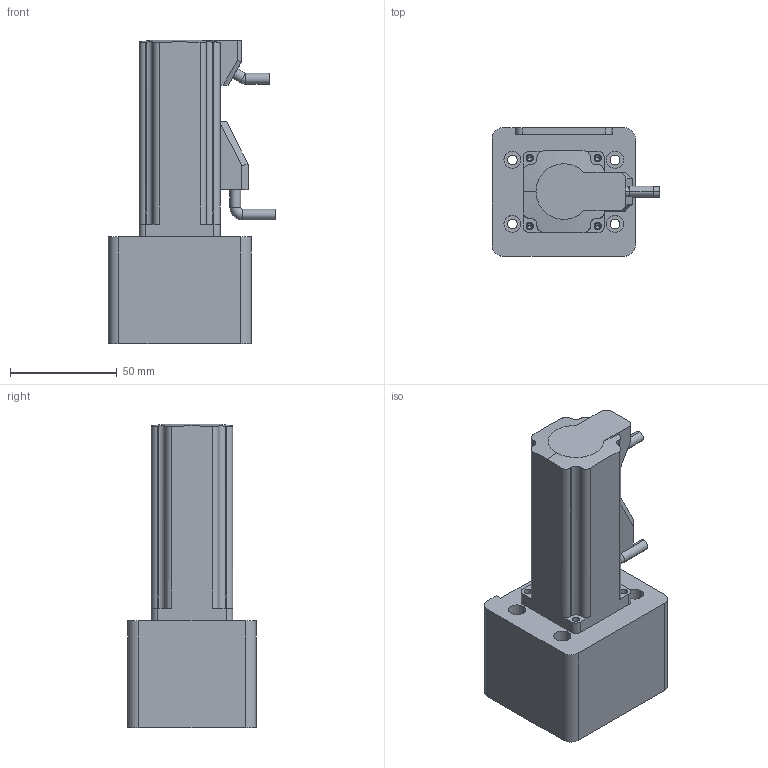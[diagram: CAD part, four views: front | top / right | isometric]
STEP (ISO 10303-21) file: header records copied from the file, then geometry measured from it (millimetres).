
FILE_DESCRIPTION (( 'STEP AP203' ), '1' );
FILE_NAME ('CTHM6-100W-BC.STEP', '2019-12-18T02:11:37', ( '微软用户' ), ( '微软中国' ), 'SwSTEP 2.0', 'SolidWorks 2017', '' );
FILE_SCHEMA (( 'CONFIG_CONTROL_DESIGN' ));
Length unit declared in the file: millimetre
Products named in the file (4): 萇儂假蚾價极; 侂狟MSMD-100W; DG薊粣ん裔啣; CTHM6-100W-BC
Assembly tree (3 placements, depth 2):
  CTHM6-100W-BC
    萇儂假蚾價极
    侂狟MSMD-100W
    DG薊粣ん裔啣
Bounding box: 78.5 x 60 x 142 mm (x, y, z)
Volume: 271459.7 mm3; surface area: 51033.7 mm2
Topology: 3 solids, 3 shells, 179 faces, 455 edges, 291 vertices
Faces by surface type: cylinder 94, plane 71, cone 10, torus 2, bspline 2
Entity records: 6148 total; most frequent: CARTESIAN_POINT 1313, DIRECTION 956, ORIENTED_EDGE 890, EDGE_CURVE 445, AXIS2_PLACEMENT_3D 361, VERTEX_POINT 291, VECTOR 234, LINE 234
